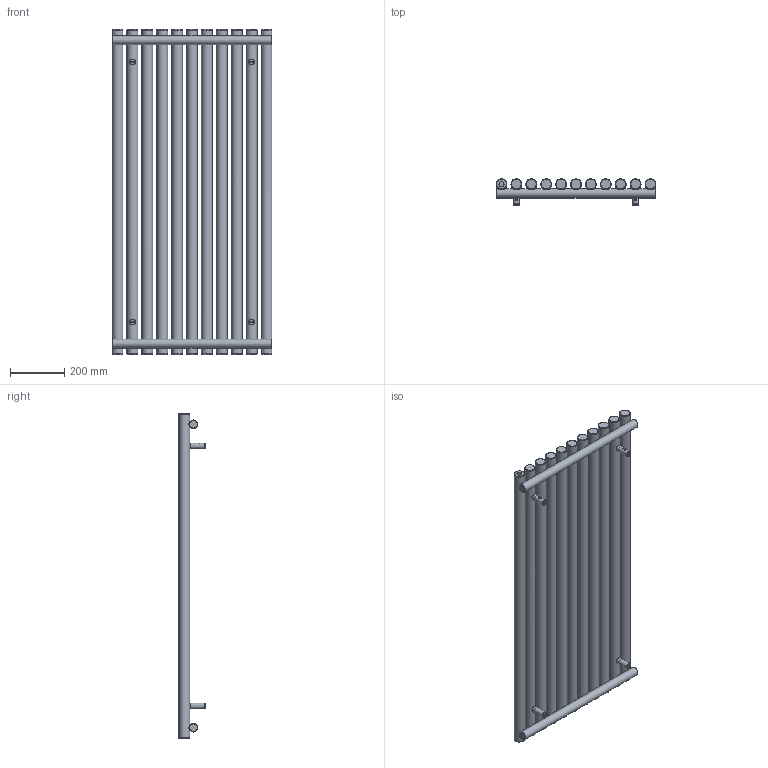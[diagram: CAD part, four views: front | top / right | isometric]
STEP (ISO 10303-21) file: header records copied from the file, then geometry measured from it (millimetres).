
FILE_DESCRIPTION(/* description */ (''),/* implementation_level */ '2;1');
FILE_NAME(/* name */ 'Z:\R\G\P\RGP116 - Grzejniki Geyser\Work\Inventor\Circolo (Rolo V, Rolo H)\ROLO-ROOM\Marketing\Zaokrąglone\WGROR120059-SX-CK-(Z).stp',/* time_stamp */ '2024-01-19T11:46:00+01:00',/* author */ ('NowAd'),/* organization */ (''),/* preprocessor_version */ 'ST-DEVELOPER v17.2',/* originating_system */ 'Autodesk Inventor 2019',/* authorisation */ '');
FILE_SCHEMA (('AUTOMOTIVE_DESIGN { 1 0 10303 214 3 1 1 }','TECHNICAL_DATA_PACKAGING'));
Length unit declared in the file: millimetre
Products named in the file (3): WGROR120059-SX-CK-(Z); PGROR120059-SX-CK-(K); CK-V-fi40 marketing
Assembly tree (5 placements, depth 2):
  WGROR120059-SX-CK-(Z)
    PGROR120059-SX-CK-(K)
    CK-V-fi40 marketing  x4
Bounding box: 590 x 96.5 x 1200 mm (x, y, z)
Volume: 17572219.2 mm3; surface area: 1825718.9 mm2
Topology: 5 solids, 5 shells, 361 faces, 894 edges, 598 vertices
Faces by surface type: plane 145, cylinder 80, cone 60, torus 54, bspline 22
Full cylindrical faces by diameter (mm): 4.134 x4, 4.48 x4, 6.4 x4, 10 x4, 12 x4, 15.834 x4, 16 x4, 18.631 x3, 22 x4, 32 x2, 40 x11
Entity records: 9585 total; most frequent: CARTESIAN_POINT 5377, DIRECTION 875, ORIENTED_EDGE 826, EDGE_CURVE 413, AXIS2_PLACEMENT_3D 397, VERTEX_POINT 280, EDGE_LOOP 241, CIRCLE 225
